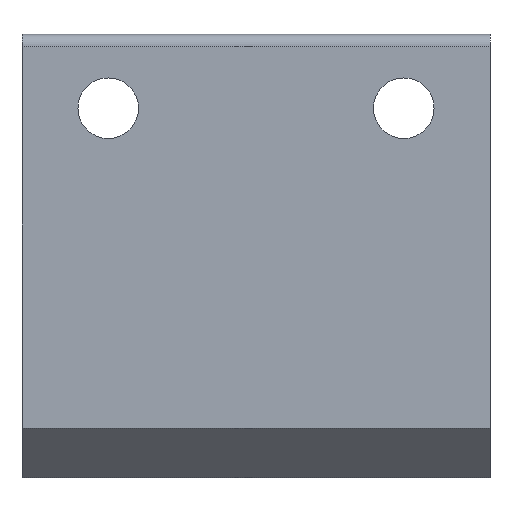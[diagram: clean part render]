
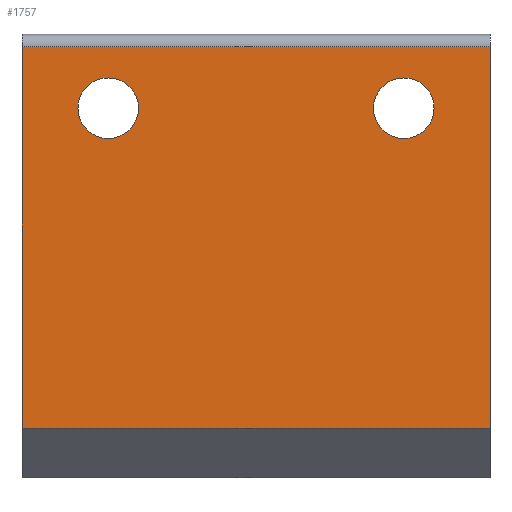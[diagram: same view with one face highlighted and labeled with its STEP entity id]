
A CAD part, front view. The second image highlights one B-rep face of the part: STEP entity #1757.
In plain terms, the highlighted planar face has unit normal (0, -1, 0).
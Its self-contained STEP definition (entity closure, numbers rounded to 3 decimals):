
#1274=CARTESIAN_POINT('',(19.0,-7.,10.5));
#1275=VERTEX_POINT('',#1274);
#1293=CARTESIAN_POINT('',(0.0,-7.,10.5));
#1294=VERTEX_POINT('',#1293);
#1302=CARTESIAN_POINT('',(0.0,-7.,10.5));
#1303=DIRECTION('',(1.0,0.0,0.0));
#1304=VECTOR('',#1303,19.0);
#1305=LINE('',#1302,#1304);
#1306=EDGE_CURVE('',#1294,#1275,#1305,.T.);
#1358=CARTESIAN_POINT('',(0.0,-7.0,-5.));
#1359=VERTEX_POINT('',#1358);
#1366=CARTESIAN_POINT('',(0.0,-7.,10.5));
#1367=DIRECTION('',(0.0,0.0,-1.0));
#1368=VECTOR('',#1367,15.5);
#1369=LINE('',#1366,#1368);
#1370=EDGE_CURVE('',#1294,#1359,#1369,.T.);
#1434=CARTESIAN_POINT('',(19.0,-7.0,-5.));
#1435=VERTEX_POINT('',#1434);
#1442=CARTESIAN_POINT('',(19.0,-7.0,-5.));
#1443=DIRECTION('',(-1.0,0.0,0.0));
#1444=VECTOR('',#1443,19.0);
#1445=LINE('',#1442,#1444);
#1446=EDGE_CURVE('',#1435,#1359,#1445,.T.);
#1581=CARTESIAN_POINT('',(4.73,-7.0,8.));
#1582=VERTEX_POINT('',#1581);
#1583=CARTESIAN_POINT('',(3.5,-7.0,8.));
#1584=DIRECTION('',(0.0,1.0,0.0));
#1585=DIRECTION('',(-1.0,0.0,0.0));
#1586=AXIS2_PLACEMENT_3D('',#1583,#1584,#1585);
#1587=CIRCLE('',#1586,1.23);
#1588=EDGE_CURVE('',#1582,#1582,#1587,.T.);
#1671=CARTESIAN_POINT('',(16.73,-7.0,8.));
#1672=VERTEX_POINT('',#1671);
#1673=CARTESIAN_POINT('',(15.5,-7.0,8.));
#1674=DIRECTION('',(0.0,1.0,0.0));
#1675=DIRECTION('',(-1.0,0.0,0.0));
#1676=AXIS2_PLACEMENT_3D('',#1673,#1674,#1675);
#1677=CIRCLE('',#1676,1.23);
#1678=EDGE_CURVE('',#1672,#1672,#1677,.T.);
#1735=CARTESIAN_POINT('',(0.0,-7.0,-7.));
#1736=DIRECTION('',(0.0,-1.0,0.0));
#1737=DIRECTION('',(0.0,0.0,-1.0));
#1738=AXIS2_PLACEMENT_3D('',#1735,#1736,#1737);
#1739=PLANE('',#1738);
#1740=ORIENTED_EDGE('',*,*,#1306,.F.);
#1741=ORIENTED_EDGE('',*,*,#1370,.T.);
#1742=ORIENTED_EDGE('',*,*,#1446,.F.);
#1743=CARTESIAN_POINT('',(19.0,-7.0,-5.));
#1744=DIRECTION('',(0.0,0.0,1.0));
#1745=VECTOR('',#1744,15.5);
#1746=LINE('',#1743,#1745);
#1747=EDGE_CURVE('',#1435,#1275,#1746,.T.);
#1748=ORIENTED_EDGE('',*,*,#1747,.T.);
#1749=EDGE_LOOP('',(#1740,#1741,#1742,#1748));
#1750=FACE_OUTER_BOUND('',#1749,.T.);
#1751=ORIENTED_EDGE('',*,*,#1588,.T.);
#1752=EDGE_LOOP('',(#1751));
#1753=FACE_BOUND('',#1752,.T.);
#1754=ORIENTED_EDGE('',*,*,#1678,.T.);
#1755=EDGE_LOOP('',(#1754));
#1756=FACE_BOUND('',#1755,.T.);
#1757=ADVANCED_FACE('',(#1750,#1753,#1756),#1739,.T.);
